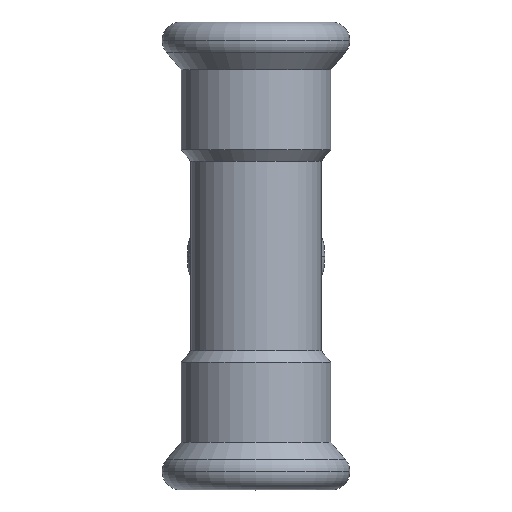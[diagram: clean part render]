
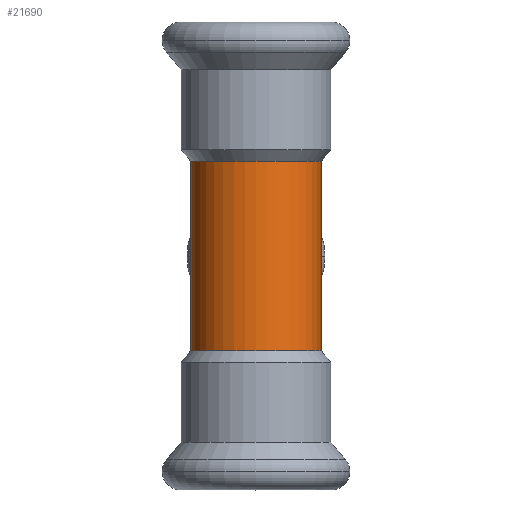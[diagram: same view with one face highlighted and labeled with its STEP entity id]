
A CAD part, top view. The second image highlights one B-rep face of the part: STEP entity #21690.
In plain terms, the highlighted cylindrical face has radius 11 mm (diameter 22 mm), a partial arc.
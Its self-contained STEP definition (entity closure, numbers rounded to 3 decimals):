
#420=CARTESIAN_POINT('',(-96.193,13.909,
16.));
#430=DIRECTION('',(0.,0.,1.));
#440=DIRECTION('',(-1.,0.,0.));
#450=AXIS2_PLACEMENT_3D('',#420,#430,#440);
#460=CYLINDRICAL_SURFACE('',#450,11.);
#6700=CARTESIAN_POINT('',(-85.193,13.909,
16.));
#6710=DIRECTION('',(0.,0.,1.));
#6720=VECTOR('',#6710,1.);
#6730=LINE('',#6700,#6720);
#6740=CARTESIAN_POINT('',(-85.193,13.909,
-16.));
#6750=VERTEX_POINT('',#6740);
#6760=CARTESIAN_POINT('',(-85.193,13.909,
16.));
#6770=VERTEX_POINT('',#6760);
#6780=EDGE_CURVE('',#6750,#6770,#6730,.T.);
#6800=CARTESIAN_POINT('',(-96.193,13.909,
16.));
#6810=DIRECTION('',(0.,0.,1.));
#6820=DIRECTION('',(1.,0.,0.));
#6830=AXIS2_PLACEMENT_3D('',#6800,#6810,#6820);
#6840=CIRCLE('',#6830,11.);
#6850=CARTESIAN_POINT('',(-107.193,13.909,
16.));
#6860=VERTEX_POINT('',#6850);
#6890=CARTESIAN_POINT('',(-107.193,13.909,
16.));
#6900=DIRECTION('',(0.,0.,1.));
#6910=VECTOR('',#6900,1.);
#6920=LINE('',#6890,#6910);
#6930=CARTESIAN_POINT('',(-107.193,13.909,
-16.));
#6940=VERTEX_POINT('',#6930);
#6950=EDGE_CURVE('',#6940,#6860,#6920,.T.);
#6970=CARTESIAN_POINT('',(-96.193,13.909,
-16.));
#6980=DIRECTION('',(0.,0.,1.));
#6990=DIRECTION('',(-1.,0.,0.));
#7000=AXIS2_PLACEMENT_3D('',#6970,#6980,#6990);
#7010=CIRCLE('',#7000,11.);
#20970=EDGE_CURVE('',#6860,#6770,#6840,.T.);
#21150=EDGE_CURVE('',#6940,#6750,#7010,.T.);
#21630=ORIENTED_EDGE('',*,*,#21150,.T.);
#21640=ORIENTED_EDGE('',*,*,#6950,.F.);
#21650=ORIENTED_EDGE('',*,*,#20970,.F.);
#21660=ORIENTED_EDGE('',*,*,#6780,.T.);
#21670=EDGE_LOOP('',(#21660,#21650,#21640,#21630));
#21680=FACE_OUTER_BOUND('',#21670,.T.);
#21690=ADVANCED_FACE('',(#21680),#460,.T.);
